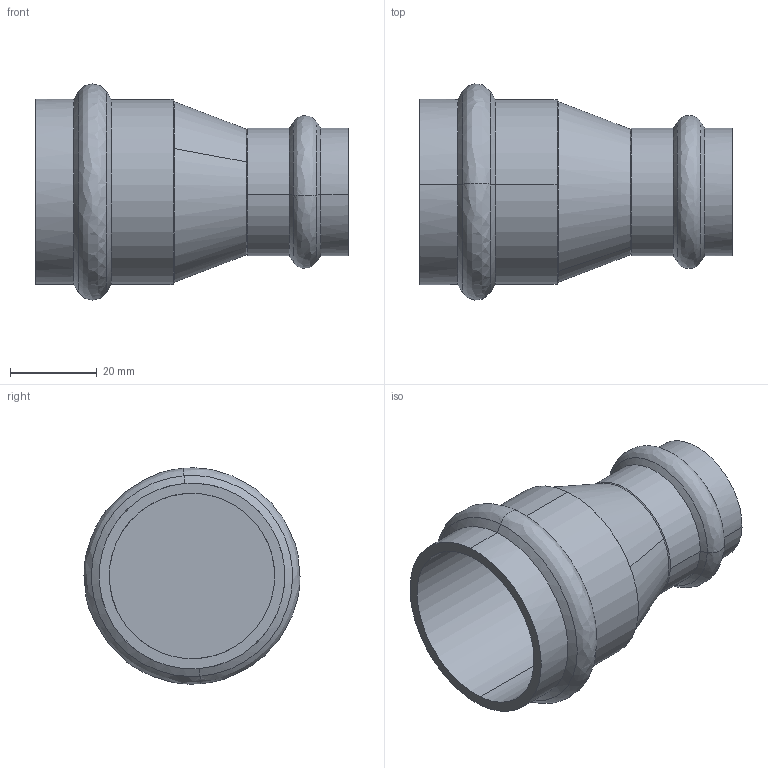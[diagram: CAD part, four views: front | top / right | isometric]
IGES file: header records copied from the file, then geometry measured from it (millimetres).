
Start section: 3D InterOp IGES (Version 25 0 1), Spatial Corp. Copyright (c) 1999-2007.
Global section: file name: pim0004382.igs; native system: Spatial Corp.; preprocessor: 3D InterOp ACIS/IGES; author: Cad-Pim; organization: TransMagic, Inc.; date: 20150430.132157; units: millimetre
Bounding box: 72 x 49.7 x 49.74 mm (x, y, z)
Volume: 35699.7 mm3; surface area: 17056.5 mm2
Topology: 1 solids, 1 shells, 34 faces, 91 edges, 61 vertices
Faces by surface type: cylinder 12, cone 12, bspline 10
